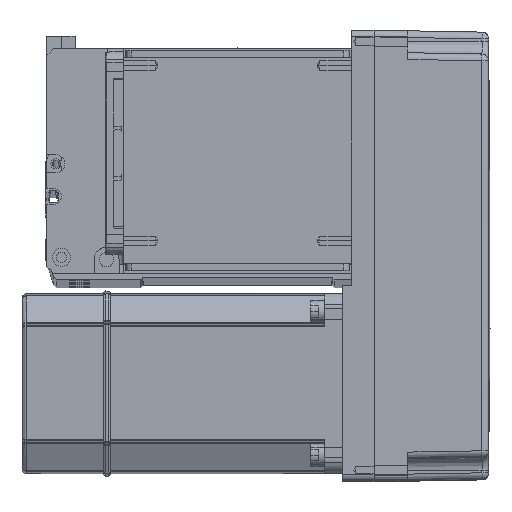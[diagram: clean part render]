
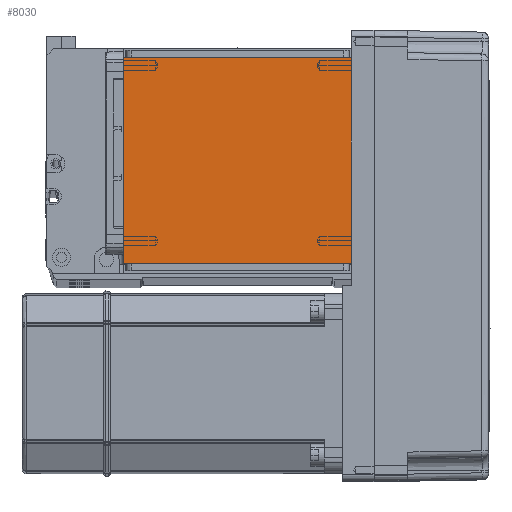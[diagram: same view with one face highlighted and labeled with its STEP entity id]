
A CAD part, top view. The second image highlights one B-rep face of the part: STEP entity #8030.
In plain terms, the highlighted planar face has unit normal (0, 0, 1).
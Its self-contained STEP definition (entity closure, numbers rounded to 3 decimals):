
#2213 = DIRECTION ( 'NONE',  ( 0., -1., 0. ) ) ;
#2394 = DIRECTION ( 'NONE',  ( -1., 0., 0. ) ) ;
#3478 = EDGE_LOOP ( 'NONE', ( #44333, #25125, #55590, #48237 ) ) ;
#6939 = CARTESIAN_POINT ( 'NONE',  ( 50.5, 111.5, 115. ) ) ;
#8030 = ADVANCED_FACE ( 'NONE', ( #38590 ), #57411, .T. ) ;
#10594 = VERTEX_POINT ( 'NONE', #6939 ) ;
#11216 = CARTESIAN_POINT ( 'NONE',  ( -50.5, 122., 115. ) ) ;
#12483 = VECTOR ( 'NONE', #61892, 1000. ) ;
#13599 = CARTESIAN_POINT ( 'NONE',  ( -70.004, 111.5, 115. ) ) ;
#13618 = LINE ( 'NONE', #20085, #36683 ) ;
#13777 = DIRECTION ( 'NONE',  ( 0., 0., 1. ) ) ;
#16991 = CARTESIAN_POINT ( 'NONE',  ( -50.5, 111.5, 115. ) ) ;
#19235 = LINE ( 'NONE', #13599, #12483 ) ;
#20085 = CARTESIAN_POINT ( 'NONE',  ( 50.5, 122., 115. ) ) ;
#22248 = CARTESIAN_POINT ( 'NONE',  ( -50.5, 20., 115. ) ) ;
#23175 = VERTEX_POINT ( 'NONE', #25820 ) ;
#25125 = ORIENTED_EDGE ( 'NONE', *, *, #33290, .T. ) ;
#25179 = AXIS2_PLACEMENT_3D ( 'NONE', #52188, #13777, #61847 ) ;
#25820 = CARTESIAN_POINT ( 'NONE',  ( 50.5, 20., 115. ) ) ;
#27359 = VECTOR ( 'NONE', #2213, 1000. ) ;
#29580 = EDGE_CURVE ( 'NONE', #23175, #49759, #41689, .T. ) ;
#33290 = EDGE_CURVE ( 'NONE', #47684, #49759, #52076, .T. ) ;
#33393 = VECTOR ( 'NONE', #2394, 1000. ) ;
#35148 = CARTESIAN_POINT ( 'NONE',  ( -70.004, 20., 115. ) ) ;
#36504 = EDGE_CURVE ( 'NONE', #23175, #10594, #13618, .T. ) ;
#36683 = VECTOR ( 'NONE', #57883, 1000. ) ;
#38590 = FACE_OUTER_BOUND ( 'NONE', #3478, .T. ) ;
#41689 = LINE ( 'NONE', #35148, #33393 ) ;
#43163 = EDGE_CURVE ( 'NONE', #47684, #10594, #19235, .T. ) ;
#44333 = ORIENTED_EDGE ( 'NONE', *, *, #43163, .F. ) ;
#47684 = VERTEX_POINT ( 'NONE', #16991 ) ;
#48237 = ORIENTED_EDGE ( 'NONE', *, *, #36504, .T. ) ;
#49759 = VERTEX_POINT ( 'NONE', #22248 ) ;
#52076 = LINE ( 'NONE', #11216, #27359 ) ;
#52188 = CARTESIAN_POINT ( 'NONE',  ( 0., 0., 115. ) ) ;
#55590 = ORIENTED_EDGE ( 'NONE', *, *, #29580, .F. ) ;
#57411 = PLANE ( 'NONE',  #25179 ) ;
#57883 = DIRECTION ( 'NONE',  ( 0., 1., 0. ) ) ;
#61847 = DIRECTION ( 'NONE',  ( 1., 0., 0. ) ) ;
#61892 = DIRECTION ( 'NONE',  ( 1., 0., 0. ) ) ;
